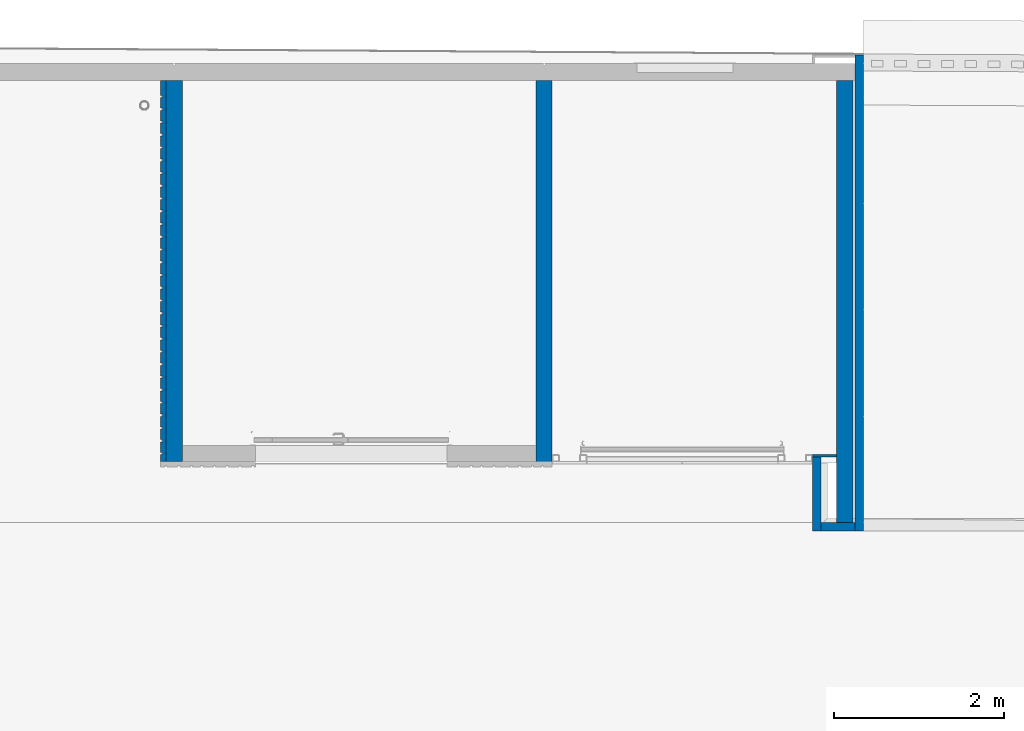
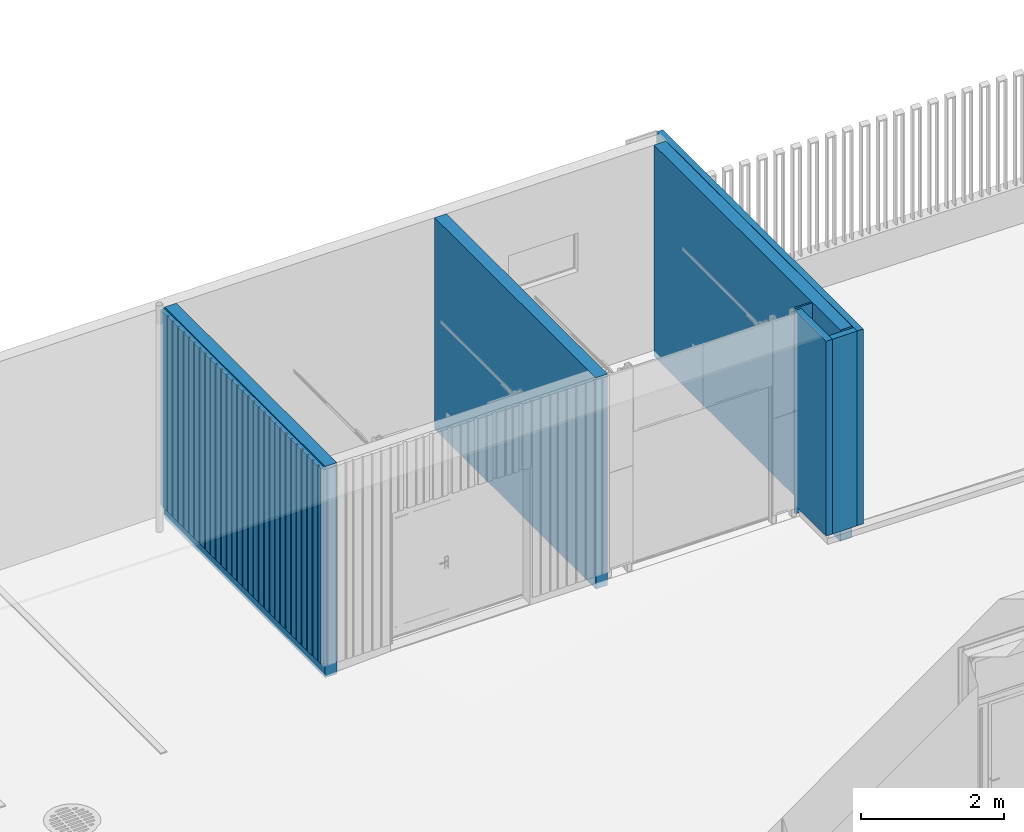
# One storey, part 27 of 77: 8 walls, 35 openings.
"""IFC2X3 building model written with IfcOpenShell, lengths in millimetres."""

from ifc_helpers import new_model, entity, si_unit, converted_unit, derived_unit, direction, frame, frame_2d, origin, place, context, subcontext, project, spatial, rectangle, extrude, material, layer, layer_set, layer_usage, type_object, element, save


model = new_model("IFC2X3")

# Units and contexts
model_context = context("Model", 3, precision=0.01, world=origin(), true_north=direction((6.12303176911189e-17, 1.0)))
body_context = subcontext(model_context, "Body", "Model", "MODEL_VIEW")
ifc_project = project(units=[si_unit("LENGTHUNIT", "METRE", prefix="MILLI"), si_unit("AREAUNIT", "SQUARE_METRE"), si_unit("VOLUMEUNIT", "CUBIC_METRE"), converted_unit("PLANEANGLEUNIT", "DEGREE", entity("IfcRatioMeasure", 0.0174532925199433), si_unit("PLANEANGLEUNIT", "RADIAN"), dimensions=[0, 0, 0, 0, 0, 0, 0]), si_unit("MASSUNIT", "GRAM", prefix="KILO"), derived_unit("MASSDENSITYUNIT", [(si_unit("MASSUNIT", "GRAM", prefix="KILO"), 1), (si_unit("LENGTHUNIT", "METRE"), -3)]), si_unit("TIMEUNIT", "SECOND"), si_unit("FREQUENCYUNIT", "HERTZ"), si_unit("THERMODYNAMICTEMPERATUREUNIT", "DEGREE_CELSIUS"), derived_unit("THERMALTRANSMITTANCEUNIT", [(si_unit("MASSUNIT", "GRAM", prefix="KILO"), 1), (si_unit("THERMODYNAMICTEMPERATUREUNIT", "KELVIN"), -1), (si_unit("TIMEUNIT", "SECOND"), -3)]), derived_unit("VOLUMETRICFLOWRATEUNIT", [(si_unit("LENGTHUNIT", "METRE"), 3), (si_unit("TIMEUNIT", "SECOND"), -1)]), si_unit("ELECTRICCURRENTUNIT", "AMPERE"), si_unit("ELECTRICVOLTAGEUNIT", "VOLT"), si_unit("POWERUNIT", "WATT"), si_unit("FORCEUNIT", "NEWTON", prefix="KILO"), si_unit("ILLUMINANCEUNIT", "LUX"), si_unit("LUMINOUSFLUXUNIT", "LUMEN"), si_unit("LUMINOUSINTENSITYUNIT", "CANDELA"), derived_unit("USERDEFINED", [(si_unit("MASSUNIT", "GRAM", prefix="KILO"), -1), (si_unit("LENGTHUNIT", "METRE"), -2), (si_unit("TIMEUNIT", "SECOND"), 3), (si_unit("LUMINOUSFLUXUNIT", "LUMEN"), 1)]), derived_unit("LINEARVELOCITYUNIT", [(si_unit("LENGTHUNIT", "METRE"), 1), (si_unit("TIMEUNIT", "SECOND"), -1)]), si_unit("PRESSUREUNIT", "PASCAL"), derived_unit("USERDEFINED", [(si_unit("LENGTHUNIT", "METRE"), -2), (si_unit("MASSUNIT", "GRAM", prefix="KILO"), 1), (si_unit("TIMEUNIT", "SECOND"), -2)])], contexts=[model_context])

# Site, building, storey
site_placement = place(None, origin())
site = spatial("IfcSite", under=ifc_project, at=site_placement, Name="Default", CompositionType="ELEMENT")
building_placement = place(site_placement, origin())
building = spatial("IfcBuilding", under=site, at=building_placement, CompositionType="ELEMENT")
storey_placement = place(building_placement, origin())
storey = spatial("IfcBuildingStorey", under=building, at=storey_placement, Name="1. KORRUS", CompositionType="ELEMENT", Elevation=0.0)

# Wall, openings
ifc_material_1 = material(Name="Must-al-komposiitplaat")
ifc_layer_1 = layer(ifc_material_1, 5.0)
ifc_material_2 = material(Name="Metal Stud Layer")
ifc_layer_2 = layer(ifc_material_2, 95.0)
ifc_layer_set_1 = layer_set([ifc_layer_1, ifc_layer_2], Name="Basic Wall:Alumiinium-komposiitplaat roovidel")
ifc_layer_usage_1 = layer_usage(ifc_layer_set_1, "AXIS2", "NEGATIVE", 50.0)
wall_type_1 = type_object("IfcWallType", Name="Basic Wall:Alumiinium-komposiitplaat roovidel", PredefinedType="STANDARD", material=ifc_layer_set_1)
wall_1_placement = place(storey_placement, frame((9349.76481329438, 40900.0994344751, 50.0), z_axis=(0.0, 0.0, 1.0), x_axis=(0.0, -1.0, 0.0)))
wall_1 = element("IfcWallStandardCase", 1, at=wall_1_placement, inside=storey, type_object=wall_type_1, material=ifc_layer_usage_1, Name="Basic Wall:Alumiinium-komposiitplaat roovidel", ObjectType="Basic Wall:Alumiinium-komposiitplaat roovidel", context=body_context, shape_type="SweptSolid", body=[
    extrude(rectangle(XDim=5600.10000000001, YDim=99.9999999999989, at=frame_2d((2800.05000000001, 0.0), x_axis=(-1.0, 0.0))), origin(), (0.0, 0.0, 1.0), 3320.0),
])
opening_1_placement = place(wall_1_placement, origin())
element("IfcOpeningElement", 2, at=opening_1_placement, cuts=wall_1, Name="Basic Wall:Alumiinium-komposiitplaat roovidel", ObjectType="Recess", context=body_context, shape_type="SweptSolid", body=[
    extrude(rectangle(XDim=3320.0, YDim=4.99999999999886, at=frame_2d((2.27373675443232e-13, 0.0), x_axis=(1.0, 0.0))), frame((4247.5, 45.0, 1660.0), z_axis=(0.0, 1.0, 0.0), x_axis=(0.0, 0.0, 1.0)), (0.0, 0.0, 1.0), 4.99999999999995),
])
opening_2_placement = place(wall_1_placement, origin())
element("IfcOpeningElement", 3, at=opening_2_placement, cuts=wall_1, Name="Basic Wall:Alumiinium-komposiitplaat roovidel", ObjectType="Recess", context=body_context, shape_type="SweptSolid", body=[
    extrude(rectangle(XDim=3320.0, YDim=4.99999999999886, at=frame_2d((2.27373675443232e-13, 0.0), x_axis=(1.0, 0.0))), frame((2997.5, 45.0, 1660.0), z_axis=(0.0, 1.0, 0.0), x_axis=(0.0, 0.0, 1.0)), (0.0, 0.0, 1.0), 4.99999999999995),
])
opening_3_placement = place(wall_1_placement, origin())
element("IfcOpeningElement", 4, at=opening_3_placement, cuts=wall_1, Name="Basic Wall:Alumiinium-komposiitplaat roovidel", ObjectType="Recess", context=body_context, shape_type="SweptSolid", body=[
    extrude(rectangle(XDim=3320.0, YDim=4.99999999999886, at=frame_2d((2.27373675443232e-13, 0.0), x_axis=(1.0, 0.0))), frame((1747.5, 45.0, 1660.0), z_axis=(0.0, 1.0, 0.0), x_axis=(0.0, 0.0, 1.0)), (0.0, 0.0, 1.0), 4.99999999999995),
])
opening_4_placement = place(wall_1_placement, origin())
element("IfcOpeningElement", 5, at=opening_4_placement, cuts=wall_1, Name="Basic Wall:Alumiinium-komposiitplaat roovidel", ObjectType="Recess", context=body_context, shape_type="SweptSolid", body=[
    extrude(rectangle(XDim=3320.0, YDim=4.99999999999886, at=frame_2d((2.27373675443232e-13, 0.0), x_axis=(1.0, 0.0))), frame((497.5, 45.0, 1660.0), z_axis=(0.0, 1.0, 0.0), x_axis=(0.0, 0.0, 1.0)), (0.0, 0.0, 1.0), 4.99999999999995),
])
opening_5_placement = place(wall_1_placement, origin())
element("IfcOpeningElement", 6, at=opening_5_placement, cuts=wall_1, Name="Basic Wall:Alumiinium-komposiitplaat roovidel", ObjectType="Recess", context=body_context, shape_type="SweptSolid", body=[
    extrude(rectangle(XDim=3320.0, YDim=4.99999999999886, at=frame_2d((2.27373675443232e-13, 0.0), x_axis=(1.0, 0.0))), frame((97.5999999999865, 45.0, 1660.0), z_axis=(0.0, 1.0, 0.0), x_axis=(0.0, 0.0, 1.0)), (0.0, 0.0, 1.0), 4.99999999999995),
])
opening_6_placement = place(wall_1_placement, origin())
element("IfcOpeningElement", 7, at=opening_6_placement, cuts=wall_1, Name="Basic Wall:Alumiinium-komposiitplaat roovidel", ObjectType="Recess", context=body_context, shape_type="SweptSolid", body=[
    extrude(rectangle(XDim=3320.0, YDim=4.99999999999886, at=frame_2d((2.27373675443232e-13, 0.0), x_axis=(1.0, 0.0))), frame((5497.5, 45.0, 1660.0), z_axis=(0.0, 1.0, 0.0), x_axis=(0.0, 0.0, 1.0)), (0.0, 0.0, 1.0), 4.99999999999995),
])

# Walls
ifc_layer_usage_2 = layer_usage(ifc_layer_set_1, "AXIS2", "POSITIVE", -50.0)
wall_2_placement = place(storey_placement, frame((8899.77, 35350.0, 50.0)))
element("IfcWallStandardCase", 8, at=wall_2_placement, inside=storey, type_object=wall_type_1, material=ifc_layer_usage_2, Name="Basic Wall:Alumiinium-komposiitplaat roovidel", ObjectType="Basic Wall:Alumiinium-komposiitplaat roovidel", context=body_context, shape_type="SweptSolid", body=[
    extrude(rectangle(XDim=399.994813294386, YDim=100.000000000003, at=frame_2d((199.997406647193, 0.0), x_axis=(-1.0, 0.0))), origin(), (0.0, 0.0, 1.0), 3320.0),
])
ifc_layer_usage_3 = layer_usage(ifc_layer_set_1, "AXIS2", "POSITIVE", -50.0)
wall_3_placement = place(storey_placement, frame((8849.77, 36170.0, 50.0), z_axis=(0.0, 0.0, 1.0), x_axis=(0.0, -1.0, 0.0)))
element("IfcWallStandardCase", 9, at=wall_3_placement, inside=storey, type_object=wall_type_1, material=ifc_layer_usage_3, Name="Basic Wall:Alumiinium-komposiitplaat roovidel", ObjectType="Basic Wall:Alumiinium-komposiitplaat roovidel", context=body_context, shape_type="SweptSolid", body=[
    extrude(rectangle(XDim=869.999999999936, YDim=99.9999999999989, at=frame_2d((434.999999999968, 8.5265128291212e-14), x_axis=(-1.0, 0.0))), origin(), (0.0, 0.0, 1.0), 3320.0),
])

# Wall, openings
ifc_material_3 = material(Name="Default New Material-must puit")
ifc_layer_3 = layer(ifc_material_3, 21.0)
ifc_material_4 = material(Name="Default New Material-must puit_roov")
ifc_layer_4 = layer(ifc_material_4, 45.0)
ifc_layer_set_2 = layer_set([ifc_layer_3, ifc_layer_4], Name="Basic Wall:VS-11_puitvooder")
ifc_layer_usage_4 = layer_usage(ifc_layer_set_2, "AXIS2", "POSITIVE", -33.0)
wall_type_2 = type_object("IfcWallType", Name="Basic Wall:VS-11_puitvooder", PredefinedType="STANDARD", material=ifc_layer_set_2)
wall_4_placement = place(storey_placement, frame((1166.76394587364, 40600.0994344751, 50.0), z_axis=(0.0, 0.0, 1.0), x_axis=(0.0, -1.0, 0.0)))
wall_4 = element("IfcWallStandardCase", 10, at=wall_4_placement, inside=storey, type_object=wall_type_2, material=ifc_layer_usage_4, Name="Basic Wall:VS-11_puitvooder", ObjectType="Basic Wall:VS-11_puitvooder", context=body_context, shape_type="SweptSolid", body=[
    extrude(rectangle(XDim=4480.09943447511, YDim=65.9999999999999, at=frame_2d((2240.04971723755, -1.06581410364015e-14), x_axis=(-1.0, 0.0))), origin(), (0.0, 0.0, 1.0), 3330.0),
])
opening_7_placement = place(wall_4_placement, origin())
element("IfcOpeningElement", 11, at=opening_7_placement, cuts=wall_4, Name="Basic Wall:VS-11_puitvooder", ObjectType="Recess", context=body_context, shape_type="SweptSolid", body=[
    extrude(rectangle(XDim=3330.0, YDim=24.9999999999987, at=frame_2d((0.0, -2.16626716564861e-12), x_axis=(1.0, 0.0))), frame((4387.49999999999, -33.0, 1665.0), z_axis=(0.0, 1.0, 0.0), x_axis=(0.0, 0.0, -1.0)), (0.0, 0.0, 1.0), 21.0),
])
opening_8_placement = place(wall_4_placement, origin())
element("IfcOpeningElement", 12, at=opening_8_placement, cuts=wall_4, Name="Basic Wall:VS-11_puitvooder", ObjectType="Recess", context=body_context, shape_type="SweptSolid", body=[
    extrude(rectangle(XDim=3330.0, YDim=24.9999999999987, at=frame_2d((0.0, -2.16626716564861e-12), x_axis=(1.0, 0.0))), frame((4237.49999999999, -33.0, 1665.0), z_axis=(0.0, 1.0, 0.0), x_axis=(0.0, 0.0, -1.0)), (0.0, 0.0, 1.0), 21.0),
])
opening_9_placement = place(wall_4_placement, origin())
element("IfcOpeningElement", 13, at=opening_9_placement, cuts=wall_4, Name="Basic Wall:VS-11_puitvooder", ObjectType="Recess", context=body_context, shape_type="SweptSolid", body=[
    extrude(rectangle(XDim=3330.0, YDim=24.9999999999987, at=frame_2d((0.0, -2.16626716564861e-12), x_axis=(1.0, 0.0))), frame((3937.5, -33.0, 1665.0), z_axis=(0.0, 1.0, 0.0), x_axis=(0.0, 0.0, -1.0)), (0.0, 0.0, 1.0), 21.0),
])
opening_10_placement = place(wall_4_placement, origin())
element("IfcOpeningElement", 14, at=opening_10_placement, cuts=wall_4, Name="Basic Wall:VS-11_puitvooder", ObjectType="Recess", context=body_context, shape_type="SweptSolid", body=[
    extrude(rectangle(XDim=3330.0, YDim=24.9999999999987, at=frame_2d((0.0, -2.16626716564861e-12), x_axis=(1.0, 0.0))), frame((3637.5, -33.0, 1665.0), z_axis=(0.0, 1.0, 0.0), x_axis=(0.0, 0.0, -1.0)), (0.0, 0.0, 1.0), 21.0),
])
opening_11_placement = place(wall_4_placement, origin())
element("IfcOpeningElement", 15, at=opening_11_placement, cuts=wall_4, Name="Basic Wall:VS-11_puitvooder", ObjectType="Recess", context=body_context, shape_type="SweptSolid", body=[
    extrude(rectangle(XDim=3330.0, YDim=24.9999999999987, at=frame_2d((0.0, -2.16626716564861e-12), x_axis=(1.0, 0.0))), frame((3337.5, -33.0, 1665.0), z_axis=(0.0, 1.0, 0.0), x_axis=(0.0, 0.0, -1.0)), (0.0, 0.0, 1.0), 21.0),
])
opening_12_placement = place(wall_4_placement, origin())
element("IfcOpeningElement", 16, at=opening_12_placement, cuts=wall_4, Name="Basic Wall:VS-11_puitvooder", ObjectType="Recess", context=body_context, shape_type="SweptSolid", body=[
    extrude(rectangle(XDim=3330.0, YDim=24.9999999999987, at=frame_2d((0.0, -2.16626716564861e-12), x_axis=(1.0, 0.0))), frame((4087.5, -33.0, 1665.0), z_axis=(0.0, 1.0, 0.0), x_axis=(0.0, 0.0, -1.0)), (0.0, 0.0, 1.0), 21.0),
])
opening_13_placement = place(wall_4_placement, origin())
element("IfcOpeningElement", 17, at=opening_13_placement, cuts=wall_4, Name="Basic Wall:VS-11_puitvooder", ObjectType="Recess", context=body_context, shape_type="SweptSolid", body=[
    extrude(rectangle(XDim=3330.0, YDim=24.9999999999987, at=frame_2d((0.0, -2.16626716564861e-12), x_axis=(1.0, 0.0))), frame((3787.5, -33.0, 1665.0), z_axis=(0.0, 1.0, 0.0), x_axis=(0.0, 0.0, -1.0)), (0.0, 0.0, 1.0), 21.0),
])
opening_14_placement = place(wall_4_placement, origin())
element("IfcOpeningElement", 18, at=opening_14_placement, cuts=wall_4, Name="Basic Wall:VS-11_puitvooder", ObjectType="Recess", context=body_context, shape_type="SweptSolid", body=[
    extrude(rectangle(XDim=3330.0, YDim=24.9999999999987, at=frame_2d((0.0, -2.16626716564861e-12), x_axis=(1.0, 0.0))), frame((3487.5, -33.0, 1665.0), z_axis=(0.0, 1.0, 0.0), x_axis=(0.0, 0.0, -1.0)), (0.0, 0.0, 1.0), 21.0),
])
opening_15_placement = place(wall_4_placement, origin())
element("IfcOpeningElement", 19, at=opening_15_placement, cuts=wall_4, Name="Basic Wall:VS-11_puitvooder", ObjectType="Recess", context=body_context, shape_type="SweptSolid", body=[
    extrude(rectangle(XDim=3330.0, YDim=24.9999999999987, at=frame_2d((0.0, -2.16626716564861e-12), x_axis=(1.0, 0.0))), frame((3187.5, -33.0, 1665.0), z_axis=(0.0, 1.0, 0.0), x_axis=(0.0, 0.0, -1.0)), (0.0, 0.0, 1.0), 21.0),
])
opening_16_placement = place(wall_4_placement, origin())
element("IfcOpeningElement", 20, at=opening_16_placement, cuts=wall_4, Name="Basic Wall:VS-11_puitvooder", ObjectType="Recess", context=body_context, shape_type="SweptSolid", body=[
    extrude(rectangle(XDim=3330.0, YDim=24.9999999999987, at=frame_2d((0.0, -2.16626716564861e-12), x_axis=(1.0, 0.0))), frame((2887.5, -33.0, 1665.0), z_axis=(0.0, 1.0, 0.0), x_axis=(0.0, 0.0, -1.0)), (0.0, 0.0, 1.0), 21.0),
])
opening_17_placement = place(wall_4_placement, origin())
element("IfcOpeningElement", 21, at=opening_17_placement, cuts=wall_4, Name="Basic Wall:VS-11_puitvooder", ObjectType="Recess", context=body_context, shape_type="SweptSolid", body=[
    extrude(rectangle(XDim=3330.0, YDim=24.9999999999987, at=frame_2d((0.0, -2.16626716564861e-12), x_axis=(1.0, 0.0))), frame((2587.5, -33.0, 1665.0), z_axis=(0.0, 1.0, 0.0), x_axis=(0.0, 0.0, -1.0)), (0.0, 0.0, 1.0), 21.0),
])
opening_18_placement = place(wall_4_placement, origin())
element("IfcOpeningElement", 22, at=opening_18_placement, cuts=wall_4, Name="Basic Wall:VS-11_puitvooder", ObjectType="Recess", context=body_context, shape_type="SweptSolid", body=[
    extrude(rectangle(XDim=3330.0, YDim=24.9999999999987, at=frame_2d((0.0, -2.16626716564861e-12), x_axis=(1.0, 0.0))), frame((3037.5, -33.0, 1665.0), z_axis=(0.0, 1.0, 0.0), x_axis=(0.0, 0.0, -1.0)), (0.0, 0.0, 1.0), 21.0),
])
opening_19_placement = place(wall_4_placement, origin())
element("IfcOpeningElement", 23, at=opening_19_placement, cuts=wall_4, Name="Basic Wall:VS-11_puitvooder", ObjectType="Recess", context=body_context, shape_type="SweptSolid", body=[
    extrude(rectangle(XDim=3330.0, YDim=24.9999999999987, at=frame_2d((0.0, -2.16626716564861e-12), x_axis=(1.0, 0.0))), frame((2737.5, -33.0, 1665.0), z_axis=(0.0, 1.0, 0.0), x_axis=(0.0, 0.0, -1.0)), (0.0, 0.0, 1.0), 21.0),
])
opening_20_placement = place(wall_4_placement, origin())
element("IfcOpeningElement", 24, at=opening_20_placement, cuts=wall_4, Name="Basic Wall:VS-11_puitvooder", ObjectType="Recess", context=body_context, shape_type="SweptSolid", body=[
    extrude(rectangle(XDim=3330.0, YDim=24.9999999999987, at=frame_2d((0.0, -2.16626716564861e-12), x_axis=(1.0, 0.0))), frame((2437.5, -33.0, 1665.0), z_axis=(0.0, 1.0, 0.0), x_axis=(0.0, 0.0, -1.0)), (0.0, 0.0, 1.0), 21.0),
])
opening_21_placement = place(wall_4_placement, origin())
element("IfcOpeningElement", 25, at=opening_21_placement, cuts=wall_4, Name="Basic Wall:VS-11_puitvooder", ObjectType="Recess", context=body_context, shape_type="SweptSolid", body=[
    extrude(rectangle(XDim=3330.0, YDim=24.9999999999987, at=frame_2d((0.0, -2.16626716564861e-12), x_axis=(1.0, 0.0))), frame((2137.5, -33.0, 1665.0), z_axis=(0.0, 1.0, 0.0), x_axis=(0.0, 0.0, -1.0)), (0.0, 0.0, 1.0), 21.0),
])
opening_22_placement = place(wall_4_placement, origin())
element("IfcOpeningElement", 26, at=opening_22_placement, cuts=wall_4, Name="Basic Wall:VS-11_puitvooder", ObjectType="Recess", context=body_context, shape_type="SweptSolid", body=[
    extrude(rectangle(XDim=3330.0, YDim=24.9999999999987, at=frame_2d((0.0, -2.16626716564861e-12), x_axis=(1.0, 0.0))), frame((1837.5, -33.0, 1665.0), z_axis=(0.0, 1.0, 0.0), x_axis=(0.0, 0.0, -1.0)), (0.0, 0.0, 1.0), 21.0),
])
opening_23_placement = place(wall_4_placement, origin())
element("IfcOpeningElement", 27, at=opening_23_placement, cuts=wall_4, Name="Basic Wall:VS-11_puitvooder", ObjectType="Recess", context=body_context, shape_type="SweptSolid", body=[
    extrude(rectangle(XDim=3330.0, YDim=25.000000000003, at=frame_2d((0.0, -4.33164615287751e-12), x_axis=(1.0, 0.0))), frame((1537.5, -33.0, 1665.0), z_axis=(0.0, 1.0, 0.0), x_axis=(0.0, 0.0, -1.0)), (0.0, 0.0, 1.0), 21.0),
])
opening_24_placement = place(wall_4_placement, origin())
element("IfcOpeningElement", 28, at=opening_24_placement, cuts=wall_4, Name="Basic Wall:VS-11_puitvooder", ObjectType="Recess", context=body_context, shape_type="SweptSolid", body=[
    extrude(rectangle(XDim=3330.0, YDim=24.9999999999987, at=frame_2d((0.0, -2.16626716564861e-12), x_axis=(1.0, 0.0))), frame((1987.5, -33.0, 1665.0), z_axis=(0.0, 1.0, 0.0), x_axis=(0.0, 0.0, -1.0)), (0.0, 0.0, 1.0), 21.0),
])
opening_25_placement = place(wall_4_placement, origin())
element("IfcOpeningElement", 29, at=opening_25_placement, cuts=wall_4, Name="Basic Wall:VS-11_puitvooder", ObjectType="Recess", context=body_context, shape_type="SweptSolid", body=[
    extrude(rectangle(XDim=3330.0, YDim=24.9999999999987, at=frame_2d((0.0, -2.16626716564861e-12), x_axis=(1.0, 0.0))), frame((1687.5, -33.0, 1665.0), z_axis=(0.0, 1.0, 0.0), x_axis=(0.0, 0.0, -1.0)), (0.0, 0.0, 1.0), 21.0),
])
opening_26_placement = place(wall_4_placement, origin())
element("IfcOpeningElement", 30, at=opening_26_placement, cuts=wall_4, Name="Basic Wall:VS-11_puitvooder", ObjectType="Recess", context=body_context, shape_type="SweptSolid", body=[
    extrude(rectangle(XDim=3330.0, YDim=25.000000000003, at=frame_2d((0.0, -4.33164615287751e-12), x_axis=(1.0, 0.0))), frame((1387.5, -33.0, 1665.0), z_axis=(0.0, 1.0, 0.0), x_axis=(0.0, 0.0, -1.0)), (0.0, 0.0, 1.0), 21.0),
])
opening_27_placement = place(wall_4_placement, origin())
element("IfcOpeningElement", 31, at=opening_27_placement, cuts=wall_4, Name="Basic Wall:VS-11_puitvooder", ObjectType="Recess", context=body_context, shape_type="SweptSolid", body=[
    extrude(rectangle(XDim=3330.0, YDim=25.000000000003, at=frame_2d((0.0, -4.33164615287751e-12), x_axis=(1.0, 0.0))), frame((1087.5, -33.0, 1665.0), z_axis=(0.0, 1.0, 0.0), x_axis=(0.0, 0.0, -1.0)), (0.0, 0.0, 1.0), 21.0),
])
opening_28_placement = place(wall_4_placement, origin())
element("IfcOpeningElement", 32, at=opening_28_placement, cuts=wall_4, Name="Basic Wall:VS-11_puitvooder", ObjectType="Recess", context=body_context, shape_type="SweptSolid", body=[
    extrude(rectangle(XDim=3330.0, YDim=25.000000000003, at=frame_2d((0.0, -4.33164615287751e-12), x_axis=(1.0, 0.0))), frame((787.499999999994, -33.0, 1665.0), z_axis=(0.0, 1.0, 0.0), x_axis=(0.0, 0.0, -1.0)), (0.0, 0.0, 1.0), 21.0),
])
opening_29_placement = place(wall_4_placement, origin())
element("IfcOpeningElement", 33, at=opening_29_placement, cuts=wall_4, Name="Basic Wall:VS-11_puitvooder", ObjectType="Recess", context=body_context, shape_type="SweptSolid", body=[
    extrude(rectangle(XDim=3330.0, YDim=25.000000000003, at=frame_2d((0.0, -4.33164615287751e-12), x_axis=(1.0, 0.0))), frame((487.499999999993, -33.0, 1665.0), z_axis=(0.0, 1.0, 0.0), x_axis=(0.0, 0.0, -1.0)), (0.0, 0.0, 1.0), 21.0),
])
opening_30_placement = place(wall_4_placement, origin())
element("IfcOpeningElement", 34, at=opening_30_placement, cuts=wall_4, Name="Basic Wall:VS-11_puitvooder", ObjectType="Recess", context=body_context, shape_type="SweptSolid", body=[
    extrude(rectangle(XDim=3330.0, YDim=25.000000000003, at=frame_2d((0.0, -4.33164615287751e-12), x_axis=(1.0, 0.0))), frame((1237.5, -33.0, 1665.0), z_axis=(0.0, 1.0, 0.0), x_axis=(0.0, 0.0, -1.0)), (0.0, 0.0, 1.0), 21.0),
])
opening_31_placement = place(wall_4_placement, origin())
element("IfcOpeningElement", 35, at=opening_31_placement, cuts=wall_4, Name="Basic Wall:VS-11_puitvooder", ObjectType="Recess", context=body_context, shape_type="SweptSolid", body=[
    extrude(rectangle(XDim=3330.0, YDim=25.000000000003, at=frame_2d((0.0, -4.33164615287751e-12), x_axis=(1.0, 0.0))), frame((937.499999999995, -33.0, 1665.0), z_axis=(0.0, 1.0, 0.0), x_axis=(0.0, 0.0, -1.0)), (0.0, 0.0, 1.0), 21.0),
])
opening_32_placement = place(wall_4_placement, origin())
element("IfcOpeningElement", 36, at=opening_32_placement, cuts=wall_4, Name="Basic Wall:VS-11_puitvooder", ObjectType="Recess", context=body_context, shape_type="SweptSolid", body=[
    extrude(rectangle(XDim=3330.0, YDim=25.000000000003, at=frame_2d((0.0, -4.33164615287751e-12), x_axis=(1.0, 0.0))), frame((637.499999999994, -33.0, 1665.0), z_axis=(0.0, 1.0, 0.0), x_axis=(0.0, 0.0, -1.0)), (0.0, 0.0, 1.0), 21.0),
])
opening_33_placement = place(wall_4_placement, origin())
element("IfcOpeningElement", 37, at=opening_33_placement, cuts=wall_4, Name="Basic Wall:VS-11_puitvooder", ObjectType="Recess", context=body_context, shape_type="SweptSolid", body=[
    extrude(rectangle(XDim=3330.0, YDim=24.9999999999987, at=frame_2d((0.0, -2.16626716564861e-12), x_axis=(1.0, 0.0))), frame((2287.5, -33.0, 1665.0), z_axis=(0.0, 1.0, 0.0), x_axis=(0.0, 0.0, -1.0)), (0.0, 0.0, 1.0), 21.0),
])
opening_34_placement = place(wall_4_placement, origin())
element("IfcOpeningElement", 38, at=opening_34_placement, cuts=wall_4, Name="Basic Wall:VS-11_puitvooder", ObjectType="Recess", context=body_context, shape_type="SweptSolid", body=[
    extrude(rectangle(XDim=3330.0, YDim=25.000000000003, at=frame_2d((0.0, -4.33164615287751e-12), x_axis=(1.0, 0.0))), frame((337.499999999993, -33.0, 1665.0), z_axis=(0.0, 1.0, 0.0), x_axis=(0.0, 0.0, -1.0)), (0.0, 0.0, 1.0), 21.0),
])
opening_35_placement = place(wall_4_placement, origin())
element("IfcOpeningElement", 39, at=opening_35_placement, cuts=wall_4, Name="Basic Wall:VS-11_puitvooder", ObjectType="Recess", context=body_context, shape_type="SweptSolid", body=[
    extrude(rectangle(XDim=3330.0, YDim=25.000000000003, at=frame_2d((0.0, -4.33164615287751e-12), x_axis=(1.0, 0.0))), frame((187.499999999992, -33.0, 1665.0), z_axis=(0.0, 1.0, 0.0), x_axis=(0.0, 0.0, -1.0)), (0.0, 0.0, 1.0), 21.0),
])

# Walls
ifc_material_5 = material(Name="Columbia-kivi(_värvitud-must")
ifc_layer_5 = layer(ifc_material_5, 190.0)
ifc_layer_set_3 = layer_set([ifc_layer_5], Name="Basic Wall:SS-2 Columbia190 EI30_must")
ifc_layer_usage_5 = layer_usage(ifc_layer_set_3, "AXIS2", "POSITIVE", -95.0)
wall_type_3 = type_object("IfcWallType", Name="Basic Wall:SS-2 Columbia190 EI30_must", PredefinedType="STANDARD", material=ifc_layer_set_3)
wall_5_placement = place(storey_placement, frame((5644.76481329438, 36100.0, -200.0), z_axis=(0.0, 0.0, 1.0), x_axis=(0.0, 1.0, 0.0)))
element("IfcWallStandardCase", 40, at=wall_5_placement, inside=storey, type_object=wall_type_3, material=ifc_layer_usage_5, Name="Basic Wall:SS-2 Columbia190 EI30_must", ObjectType="Basic Wall:SS-2 Columbia190 EI30_must", context=body_context, shape_type="SweptSolid", body=[
    extrude(rectangle(XDim=4500.09943447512, YDim=190.0, at=frame_2d((2250.04971723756, 4.19220214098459e-13), x_axis=(-1.0, 0.0))), origin(), (0.0, 0.0, 1.0), 3600.0),
])
ifc_layer_6 = layer(ifc_material_1, 5.0)
ifc_layer_7 = layer(ifc_material_2, 25.0)
ifc_layer_set_4 = layer_set([ifc_layer_6, ifc_layer_7], Name="Basic Wall:komposiitplaat+karkass25")
ifc_layer_usage_6 = layer_usage(ifc_layer_set_4, "AXIS2", "NEGATIVE", 15.0)
wall_type_4 = type_object("IfcWallType", Name="Basic Wall:komposiitplaat+karkass25", PredefinedType="STANDARD", material=ifc_layer_set_4)
wall_6_placement = place(storey_placement, frame((8799.77, 36185.0, -100.0)))
element("IfcWallStandardCase", 41, at=wall_6_placement, inside=storey, type_object=wall_type_4, material=ifc_layer_usage_6, Name="Basic Wall:komposiitplaat+karkass25", ObjectType="Basic Wall:komposiitplaat+karkass25", context=body_context, shape_type="SweptSolid", body=[
    extrude(rectangle(XDim=284.954184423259, YDim=30.0000000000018, at=frame_2d((142.477092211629, 0.0), x_axis=(-1.0, 0.0))), origin(), (0.0, 0.0, 1.0), 3500.0),
])
ifc_layer_8 = layer(ifc_material_5, 190.0)
ifc_layer_set_5 = layer_set([ifc_layer_8], Name="Basic Wall:VS-11_Columbia190 al-komp")
ifc_layer_usage_7 = layer_usage(ifc_layer_set_5, "AXIS2", "POSITIVE", -95.0)
wall_type_5 = type_object("IfcWallType", Name="Basic Wall:VS-11_Columbia190 al-komp", PredefinedType="STANDARD", material=ifc_layer_set_5)
wall_7_placement = place(storey_placement, frame((9179.72418442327, 40600.0994344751, -200.0), z_axis=(0.0, 0.0, 1.0), x_axis=(0.0, -1.0, 0.0)))
element("IfcWallStandardCase", 42, at=wall_7_placement, inside=storey, type_object=wall_type_5, material=ifc_layer_usage_7, Name="Basic Wall:VS-11_Columbia190 al-komp", ObjectType="Basic Wall:VS-11_Columbia190 al-komp", context=body_context, shape_type="SweptSolid", body=[
    extrude(rectangle(XDim=5200.0, YDim=190.0, at=frame_2d((2600.0, -1.27897692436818e-13), x_axis=(-1.0, 0.0))), origin(), (0.0, 0.0, 1.0), 3600.0),
])
ifc_layer_9 = layer(ifc_material_5, 190.0)
ifc_layer_set_6 = layer_set([ifc_layer_9], Name="Basic Wall:VS-11_Columbia190 must")
ifc_layer_usage_8 = layer_usage(ifc_layer_set_6, "AXIS2", "POSITIVE", -95.0)
wall_type_6 = type_object("IfcWallType", Name="Basic Wall:VS-11_Columbia190 must", PredefinedType="STANDARD", material=ifc_layer_set_6)
wall_8_placement = place(storey_placement, frame((1294.76481328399, 36120.0, -200.0), z_axis=(0.0, 0.0, 1.0), x_axis=(0.0, 1.0, 0.0)))
element("IfcWallStandardCase", 43, at=wall_8_placement, inside=storey, type_object=wall_type_6, material=ifc_layer_usage_8, Name="Basic Wall:VS-11_Columbia190 must", ObjectType="Basic Wall:VS-11_Columbia190 must", context=body_context, shape_type="SweptSolid", body=[
    extrude(rectangle(XDim=4480.09943447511, YDim=190.0, at=frame_2d((2240.04971723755, -7.105427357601e-15), x_axis=(-1.0, 0.0))), origin(), (0.0, 0.0, 1.0), 3600.0),
])

save(model, "model.ifc")
